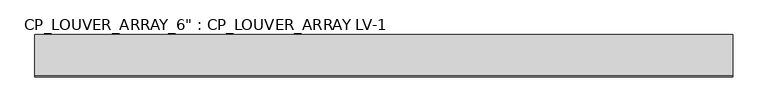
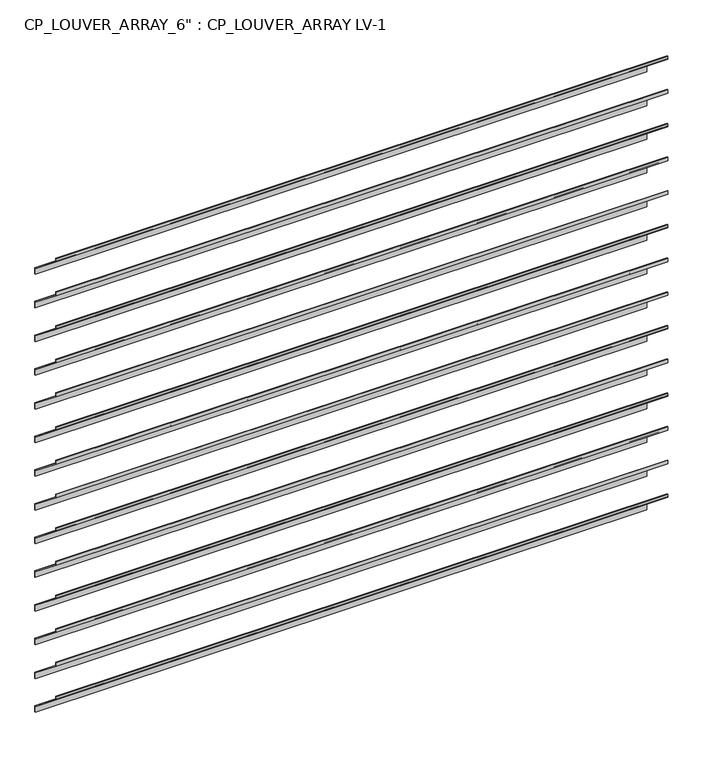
"""IFC4 building model written with IfcOpenShell, lengths in millimetres: plate geometry."""

import ifcopenshell
import ifcopenshell.guid

model = None  # the IFC model being written
_history = None  # IfcOwnerHistory: only IFC2X3 demands one
_inside = {}  # id of a spatial element -> (the spatial element, [elements in it])
_under = {}  # id of a project, library or spatial element -> (it, [spatial elements below it])
_declared = {}  # id of a project -> (the project, [libraries it declares])
_typed = {}  # id of a type object -> (the type object, [elements of that type])
_made_of = {}  # id of a material, layer set ... -> (it, [elements and type objects made of it])


def new_model(schema):
    """Start an empty IFC model of exactly this schema.

    Asked for "IFC4X3", IfcOpenShell would pick the latest addendum, in which some entities
    have other attributes; the version numbers below select the first issue.
    IFC2X3 requires an IfcOwnerHistory on every rooted entity: one is made here for all.
    """
    global model, _history
    if schema == "IFC4X3":
        model = ifcopenshell.file(schema_version=(4, 3, 0, 0))
    else:
        model = ifcopenshell.file(schema=schema)
    _inside.clear()
    _under.clear()
    _declared.clear()
    _typed.clear()
    _made_of.clear()
    _history = None
    if model.schema == "IFC2X3":
        org = make("IfcOrganization", Name="unknown")
        user = make(
            "IfcPersonAndOrganization",
            ThePerson=make("IfcPerson", FamilyName="unknown"),
            TheOrganization=org,
        )
        app = make(
            "IfcApplication",
            ApplicationDeveloper=org,
            Version="unknown",
            ApplicationFullName="unknown",
            ApplicationIdentifier="unknown",
        )
        _history = make(
            "IfcOwnerHistory",
            OwningUser=user,
            OwningApplication=app,
            ChangeAction="ADDED",
            CreationDate=0,
        )
    return model


def make(cls, **values):
    """One entity of the class cls with the attributes given. An attribute that is None is left unset."""
    return model.create_entity(
        cls, **{name: value for name, value in values.items() if value is not None}
    )


def rooted(cls, **values):
    """An entity with a GlobalId (a new one), such as an element, a storey or a relation."""
    return make(cls, GlobalId=ifcopenshell.guid.new(), OwnerHistory=_history, **values)


def si_unit(unit_type, name, prefix=None):
    """IfcSIUnit, for example si_unit("LENGTHUNIT", "METRE", prefix="MILLI")."""
    return make("IfcSIUnit", UnitType=unit_type, Prefix=prefix, Name=name)


def assignment(units):
    """IfcUnitAssignment: the units of a project."""
    return None if units is None else make("IfcUnitAssignment", Units=units)


def point(xyz):
    """IfcCartesianPoint."""
    return None if xyz is None else make("IfcCartesianPoint", Coordinates=xyz)


def direction(xyz):
    """IfcDirection."""
    return None if xyz is None else make("IfcDirection", DirectionRatios=xyz)


def frame(location, z_axis=None, x_axis=None):
    """IfcAxis2Placement3D, a coordinate frame: its origin and axes. An axis left out is left unset."""
    return make(
        "IfcAxis2Placement3D",
        Location=point(location),
        Axis=direction(z_axis),
        RefDirection=direction(x_axis),
    )


def origin():
    """The frame at (0, 0, 0) with its axes left unset."""
    return frame((0.0, 0.0, 0.0))


def place(relative_to, where):
    """IfcLocalPlacement: puts the frame where relative to a parent placement (None: the world)."""
    return make(
        "IfcLocalPlacement", PlacementRelTo=relative_to, RelativePlacement=where
    )


def context(
    kind, dimensions, precision=None, world=None, true_north=None, identifier=None
):
    """IfcGeometricRepresentationContext, for example the 3D "Model" context."""
    return make(
        "IfcGeometricRepresentationContext",
        ContextIdentifier=identifier,
        ContextType=kind,
        CoordinateSpaceDimension=dimensions,
        Precision=precision,
        WorldCoordinateSystem=world,
        TrueNorth=true_north,
    )


def project(units=None, contexts=None):
    """IfcProject with its units and contexts."""
    return rooted(
        "IfcProject",
        Name="project",
        RepresentationContexts=contexts,
        UnitsInContext=assignment(units),
    )


def spatial(cls, under=None, at=None, **own):
    """A site, building, storey or space (cls), placed at a placement, below another one or the project."""
    s = rooted(cls, ObjectPlacement=at, **own)
    if under is not None:
        _under.setdefault(under.id(), (under, []))[1].append(s)
    return s


def polyline(points):
    """IfcPolyline through the points."""
    return make("IfcPolyline", Points=[point(p) for p in points])


def outline(outer, holes=None, kind="AREA"):
    """IfcArbitraryClosedProfileDef: a profile drawn as a closed curve; with holes, ...WithVoids."""
    if holes is None:
        return make("IfcArbitraryClosedProfileDef", ProfileType=kind, OuterCurve=outer)
    return make(
        "IfcArbitraryProfileDefWithVoids",
        ProfileType=kind,
        OuterCurve=outer,
        InnerCurves=holes,
    )


def extrude(swept, where, along, depth):
    """IfcExtrudedAreaSolid: the profile swept, set in the frame where, extruded along a direction by depth."""
    return make(
        "IfcExtrudedAreaSolid",
        SweptArea=swept,
        Position=where,
        ExtrudedDirection=direction(along),
        Depth=depth,
    )


def shape(context_of_items, identifier, shape_type, items):
    """IfcShapeRepresentation: the items that make up one representation, for example the "Body"."""
    return make(
        "IfcShapeRepresentation",
        ContextOfItems=context_of_items,
        RepresentationIdentifier=identifier,
        RepresentationType=shape_type,
        Items=items,
    )


def source(mapping_origin, context_of_items, identifier, shape_type, items):
    """IfcRepresentationMap: a shape defined once, which mapped items show again and again."""
    return make(
        "IfcRepresentationMap",
        MappingOrigin=mapping_origin,
        MappedRepresentation=shape(context_of_items, identifier, shape_type, items),
    )


def transform(
    local_origin,
    x_axis=None,
    y_axis=None,
    z_axis=None,
    scale=None,
    scale2=None,
    scale3=None,
    uniform=True,
):
    """IfcCartesianTransformationOperator3D, or its non-uniform kind. x_axis, y_axis, z_axis: its Axis1, 2, 3."""
    if uniform:
        return make(
            "IfcCartesianTransformationOperator3D",
            Axis1=direction(x_axis),
            Axis2=direction(y_axis),
            LocalOrigin=point(local_origin),
            Scale=scale,
            Axis3=direction(z_axis),
        )
    return make(
        "IfcCartesianTransformationOperator3DnonUniform",
        Axis1=direction(x_axis),
        Axis2=direction(y_axis),
        LocalOrigin=point(local_origin),
        Scale=scale,
        Axis3=direction(z_axis),
        Scale2=scale2,
        Scale3=scale3,
    )


def mapped(mapping_source, mapping_target):
    """IfcMappedItem: shows the shape of a source again, moved by a transform."""
    return make(
        "IfcMappedItem", MappingSource=mapping_source, MappingTarget=mapping_target
    )


def made_of(thing, what):
    """Note that an element or type object is made of a material, layer set ...; save() writes the relation."""
    if what is not None:
        _made_of.setdefault(what.id(), (what, []))[1].append(thing)
    return thing


def element(
    cls,
    number,
    at=None,
    inside=None,
    cuts=None,
    type_object=None,
    material=None,
    context=None,
    identifier="Body",
    shape_type=None,
    held_by="IfcProductDefinitionShape",
    body=None,
    shapes=None,
    **own,
):
    """One element of the class cls, such as IfcWall. Its Tag is "e" and its number.

    at: its placement. inside: the storey or other place that contains it. cuts: it is an
    opening in that element (IfcRelVoidsElement). A single representation is given by context,
    identifier, shape_type and body (its items); several are given by shapes. held_by: the class
    of the entity that holds the representations. save() writes the other relations.
    """
    e = rooted(cls, Tag="e%d" % number, ObjectPlacement=at, **own)
    if body is not None:
        shapes = [shape(context, identifier, shape_type, body)]
    if shapes is not None:
        e.Representation = make(held_by, Representations=shapes)
    if inside is not None:
        _inside.setdefault(inside.id(), (inside, []))[1].append(e)
    if cuts is not None:
        rooted(
            "IfcRelVoidsElement", RelatingBuildingElement=cuts, RelatedOpeningElement=e
        )
    if type_object is not None:
        _typed.setdefault(type_object.id(), (type_object, []))[1].append(e)
    return made_of(e, material)


def aggregate(whole, parts):
    """IfcRelAggregates: a whole, such as a stair, and the parts it consists of."""
    return rooted("IfcRelAggregates", RelatingObject=whole, RelatedObjects=parts)


def save(model, path):
    """Write the relations noted so far, then the file.

    IfcRelAggregates (storeys below a building ...), IfcRelContainedInSpatialStructure (elements
    in a storey), IfcRelDefinesByType, IfcRelAssociatesMaterial and IfcRelDeclares: one each for
    every whole, place, type object, material and project.
    """
    for whole, parts in _under.values():
        aggregate(whole, parts)
    for where, things in _inside.values():
        rooted(
            "IfcRelContainedInSpatialStructure",
            RelatedElements=things,
            RelatingStructure=where,
        )
    for kind, things in _typed.values():
        rooted("IfcRelDefinesByType", RelatedObjects=things, RelatingType=kind)
    for what, things in _made_of.values():
        rooted("IfcRelAssociatesMaterial", RelatedObjects=things, RelatingMaterial=what)
    for by, libraries in _declared.values():
        rooted("IfcRelDeclares", RelatingContext=by, RelatedDefinitions=libraries)
    model.write(path)


def plate_d24df1be(model_context):
    return source(origin(), model_context, "Body", "SweptSolid", [
        extrude(outline(polyline([(10.1207966, 1993.9), (6.9457966, 1993.9), (6.9457966, 2019.8070081), (-148.6292034, 2144.2670081), (-148.6292034, 2159.0), (-145.4542034, 2159.0), (-145.4542034, 2145.7929919), (10.1207966, 2021.3329919), (10.1207966, 1993.9)])), frame((-1308.1, 0.0, 0.0), z_axis=(1.0, 0.0, 0.0), x_axis=(0.0, 1.0, 0.0)), (0.0, 0.0, 1.0), 2616.2),
        extrude(outline(polyline([(10.1207966, 1841.5), (6.9457966, 1841.5), (6.9457966, 1867.4070081), (-148.6292034, 1991.8670081), (-148.6292034, 2006.6), (-145.4542034, 2006.6), (-145.4542034, 1993.3929919), (10.1207966, 1868.9329919), (10.1207966, 1841.5)])), frame((-1308.1, 0.0, 0.0), z_axis=(1.0, 0.0, 0.0), x_axis=(0.0, 1.0, 0.0)), (0.0, 0.0, 1.0), 2616.2),
        extrude(outline(polyline([(10.1207966, 1689.1), (6.9457966, 1689.1), (6.9457966, 1715.0070081), (-148.6292034, 1839.4670081), (-148.6292034, 1854.2), (-145.4542034, 1854.2), (-145.4542034, 1840.9929919), (10.1207966, 1716.5329919), (10.1207966, 1689.1)])), frame((-1308.1, 0.0, 0.0), z_axis=(1.0, 0.0, 0.0), x_axis=(0.0, 1.0, 0.0)), (0.0, 0.0, 1.0), 2616.2),
        extrude(outline(polyline([(10.1207966, 1536.7), (6.9457966, 1536.7), (6.9457966, 1562.6070081), (-148.6292034, 1687.0670081), (-148.6292034, 1701.8), (-145.4542034, 1701.8), (-145.4542034, 1688.5929919), (10.1207966, 1564.1329919), (10.1207966, 1536.7)])), frame((-1308.1, 0.0, 0.0), z_axis=(1.0, 0.0, 0.0), x_axis=(0.0, 1.0, 0.0)), (0.0, 0.0, 1.0), 2616.2),
        extrude(outline(polyline([(10.1207966, 1384.3), (6.9457966, 1384.3), (6.9457966, 1410.2070081), (-148.6292034, 1534.6670081), (-148.6292034, 1549.4), (-145.4542034, 1549.4), (-145.4542034, 1536.1929919), (10.1207966, 1411.7329919), (10.1207966, 1384.3)])), frame((-1308.1, 0.0, 0.0), z_axis=(1.0, 0.0, 0.0), x_axis=(0.0, 1.0, 0.0)), (0.0, 0.0, 1.0), 2616.2),
        extrude(outline(polyline([(10.1207966, 1231.9), (6.9457966, 1231.9), (6.9457966, 1257.8070081), (-148.6292034, 1382.2670081), (-148.6292034, 1397.0), (-145.4542034, 1397.0), (-145.4542034, 1383.7929919), (10.1207966, 1259.3329919), (10.1207966, 1231.9)])), frame((-1308.1, 0.0, 0.0), z_axis=(1.0, 0.0, 0.0), x_axis=(0.0, 1.0, 0.0)), (0.0, 0.0, 1.0), 2616.2),
        extrude(outline(polyline([(10.1207966, 1079.5), (6.9457966, 1079.5), (6.9457966, 1105.4070081), (-148.6292034, 1229.8670081), (-148.6292034, 1244.6), (-145.4542034, 1244.6), (-145.4542034, 1231.3929919), (10.1207966, 1106.9329919), (10.1207966, 1079.5)])), frame((-1308.1, 0.0, 0.0), z_axis=(1.0, 0.0, 0.0), x_axis=(0.0, 1.0, 0.0)), (0.0, 0.0, 1.0), 2616.2),
        extrude(outline(polyline([(10.1207966, 927.1), (6.9457966, 927.1), (6.9457966, 953.0070081), (-148.6292034, 1077.4670081), (-148.6292034, 1092.2), (-145.4542034, 1092.2), (-145.4542034, 1078.9929919), (10.1207966, 954.5329919), (10.1207966, 927.1)])), frame((-1308.1, 0.0, 0.0), z_axis=(1.0, 0.0, 0.0), x_axis=(0.0, 1.0, 0.0)), (0.0, 0.0, 1.0), 2616.2),
        extrude(outline(polyline([(10.1207966, 774.7), (6.9457966, 774.7), (6.9457966, 800.6070081), (-148.6292034, 925.0670081), (-148.6292034, 939.8), (-145.4542034, 939.8), (-145.4542034, 926.5929919), (10.1207966, 802.1329919), (10.1207966, 774.7)])), frame((-1308.1, 0.0, 0.0), z_axis=(1.0, 0.0, 0.0), x_axis=(0.0, 1.0, 0.0)), (0.0, 0.0, 1.0), 2616.2),
        extrude(outline(polyline([(10.1207966, 622.3), (6.9457966, 622.3), (6.9457966, 648.2070081), (-148.6292034, 772.6670081), (-148.6292034, 787.4), (-145.4542034, 787.4), (-145.4542034, 774.1929919), (10.1207966, 649.7329919), (10.1207966, 622.3)])), frame((-1308.1, 0.0, 0.0), z_axis=(1.0, 0.0, 0.0), x_axis=(0.0, 1.0, 0.0)), (0.0, 0.0, 1.0), 2616.2),
        extrude(outline(polyline([(10.1207966, 469.9), (6.9457966, 469.9), (6.9457966, 495.8070081), (-148.6292034, 620.2670081), (-148.6292034, 635.0), (-145.4542034, 635.0), (-145.4542034, 621.7929919), (10.1207966, 497.3329919), (10.1207966, 469.9)])), frame((-1308.1, 0.0, 0.0), z_axis=(1.0, 0.0, 0.0), x_axis=(0.0, 1.0, 0.0)), (0.0, 0.0, 1.0), 2616.2),
        extrude(outline(polyline([(10.1207966, 317.5), (6.9457966, 317.5), (6.9457966, 343.4070081), (-148.6292034, 467.8670081), (-148.6292034, 482.6), (-145.4542034, 482.6), (-145.4542034, 469.3929919), (10.1207966, 344.9329919), (10.1207966, 317.5)])), frame((-1308.1, 0.0, 0.0), z_axis=(1.0, 0.0, 0.0), x_axis=(0.0, 1.0, 0.0)), (0.0, 0.0, 1.0), 2616.2),
        extrude(outline(polyline([(10.1207966, 165.1), (6.9457966, 165.1), (6.9457966, 191.0070081), (-148.6292034, 315.4670081), (-148.6292034, 330.2), (-145.4542034, 330.2), (-145.4542034, 316.9929919), (10.1207966, 192.5329919), (10.1207966, 165.1)])), frame((-1308.1, 0.0, 0.0), z_axis=(1.0, 0.0, 0.0), x_axis=(0.0, 1.0, 0.0)), (0.0, 0.0, 1.0), 2616.2),
        extrude(outline(polyline([(10.1207966, 12.7), (6.9457966, 12.7), (6.9457966, 38.6070081), (-148.6292034, 163.0670081), (-148.6292034, 177.8), (-145.4542034, 177.8), (-145.4542034, 164.5929919), (10.1207966, 40.1329919), (10.1207966, 12.7)])), frame((-1308.1, 0.0, 0.0), z_axis=(1.0, 0.0, 0.0), x_axis=(0.0, 1.0, 0.0)), (0.0, 0.0, 1.0), 2616.2),
    ])


if __name__ == "__main__":
    model = new_model("IFC4")
    model_context = context("Model", 3, world=origin())
    ifc_project = project(units=[si_unit("LENGTHUNIT", "METRE", prefix="MILLI")], contexts=[model_context])
    site = spatial("IfcSite", under=ifc_project)
    building = spatial("IfcBuilding", under=site)
    placement = place(None, origin())
    plate_shape = plate_d24df1be(model_context)
    element("IfcPlate", 1, ObjectType="CP_LOUVER_ARRAY_6\" : CP_LOUVER_ARRAY LV-1", at=placement, inside=building, context=model_context, shape_type="MappedRepresentation", body=[
        mapped(plate_shape, transform((0.0, 0.0, 0.0), x_axis=(1.0, 0.0, 0.0), y_axis=(0.0, 1.0, 0.0), z_axis=(0.0, 0.0, 1.0))),
    ])
    save(model, "model.ifc")
